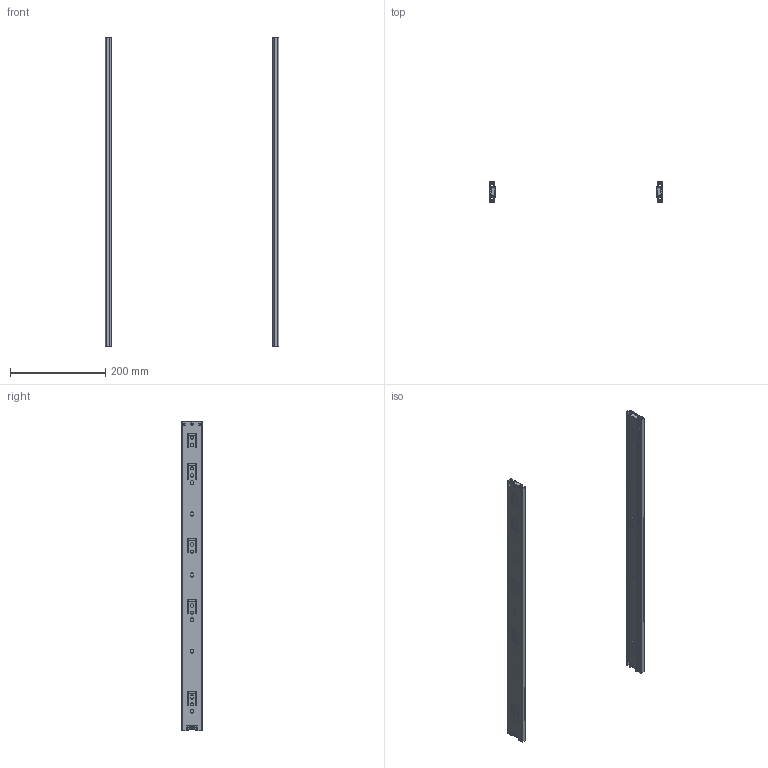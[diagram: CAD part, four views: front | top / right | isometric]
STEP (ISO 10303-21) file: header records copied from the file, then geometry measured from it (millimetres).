
FILE_DESCRIPTION(/* description */ (''),/* implementation_level */ '2;1');
FILE_NAME(/* name */ 'D:\$Workingspace\Designs\Katalog\Cadsoft\GTV Prowadnice\Prowadnice GTV_bryły 3D\PK-0H45650GX.stp',/* time_stamp */ '2016-11-22T11:53:06+01:00',/* author */ ('tomaszw'),/* organization */ (''),/* preprocessor_version */ 'ST-DEVELOPER v16.1',/* originating_system */ 'Autodesk Inventor 2016',/* authorisation */ '');
FILE_SCHEMA (('AUTOMOTIVE_DESIGN { 1 0 10303 214 3 1 1 }'));
Length unit declared in the file: millimetre
Products named in the file (5): Blokada_5; PK-0H45_1-650-GX; PK-0H45_2-650-GX; PK-0H45_3-650-GX; PK-0H45-_-GX
Assembly tree (8 placements, depth 2):
  PK-0H45-_-GX
    Blokada_5  x2
    PK-0H45_1-650-GX  x2
    PK-0H45_2-650-GX  x2
    PK-0H45_3-650-GX  x2
Bounding box: 364 x 44.5 x 650 mm (x, y, z)
Volume: 194915.9 mm3; surface area: 398158.4 mm2
Topology: 8 solids, 8 shells, 552 faces, 1600 edges, 1064 vertices
Faces by surface type: cylinder 284, plane 264, cone 4
Full cylindrical faces by diameter (mm): 4.5 x6, 5 x2, 5.1 x2, 6 x10, 7 x4
Entity records: 9686 total; most frequent: DIRECTION 1640, CARTESIAN_POINT 1635, ORIENTED_EDGE 1576, EDGE_CURVE 788, AXIS2_PLACEMENT_3D 571, VERTEX_POINT 532, LINE 498, VECTOR 498
